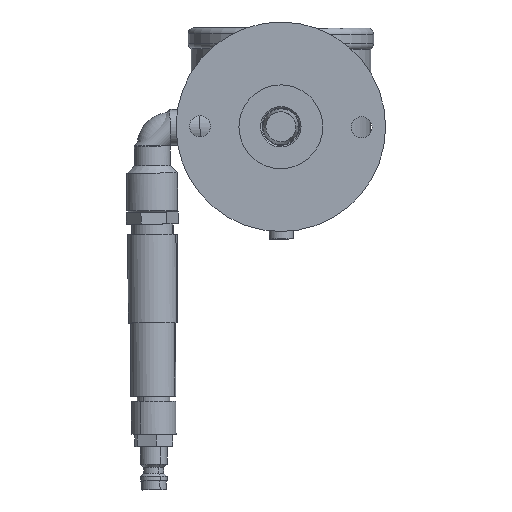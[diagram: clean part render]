
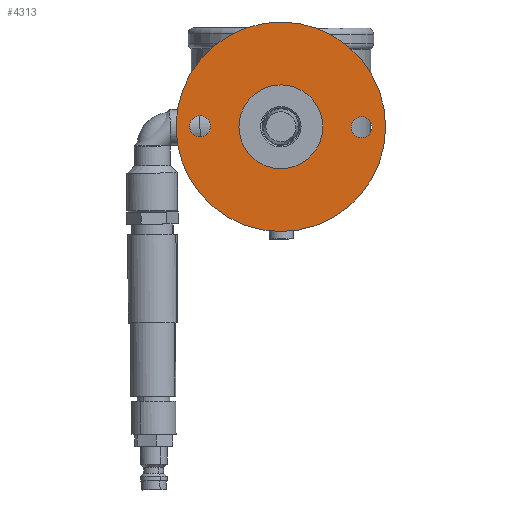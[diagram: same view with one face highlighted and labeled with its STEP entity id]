
A CAD part, front view. The second image highlights one B-rep face of the part: STEP entity #4313.
In plain terms, the highlighted planar face has unit normal (0, -1, 0) as drawn and (-1, 0, 0) by its records, which use the part's own axes.
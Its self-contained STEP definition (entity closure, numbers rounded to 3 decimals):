
#260 = EDGE_CURVE ( 'NONE', #273, #5660, #5349, .T. ) ;
#273 = VERTEX_POINT ( 'NONE', #3263 ) ;
#438 = CARTESIAN_POINT ( 'NONE',  ( 3., 27., 0. ) ) ;
#576 = CARTESIAN_POINT ( 'NONE',  ( 3., 0., 0. ) ) ;
#674 = FACE_BOUND ( 'NONE', #7912, .T. ) ;
#1028 = DIRECTION ( 'NONE',  ( 1., 0., 0. ) ) ;
#1107 = VERTEX_POINT ( 'NONE', #2390 ) ;
#1145 = DIRECTION ( 'NONE',  ( 0., 0., -1. ) ) ;
#1162 = DIRECTION ( 'NONE',  ( 1., 0., 0. ) ) ;
#1221 = CARTESIAN_POINT ( 'NONE',  ( 3., 0., 14. ) ) ;
#1408 = AXIS2_PLACEMENT_3D ( 'NONE', #5350, #1162, #6062 ) ;
#1505 = ORIENTED_EDGE ( 'NONE', *, *, #1561, .F. ) ;
#1544 = CIRCLE ( 'NONE', #6758, 35. ) ;
#1561 = EDGE_CURVE ( 'NONE', #5115, #2522, #1718, .T. ) ;
#1572 = DIRECTION ( 'NONE',  ( 1., 0., 0. ) ) ;
#1609 = EDGE_LOOP ( 'NONE', ( #1505, #6051 ) ) ;
#1678 = EDGE_LOOP ( 'NONE', ( #2945, #4240 ) ) ;
#1718 = CIRCLE ( 'NONE', #2557, 35. ) ;
#1720 = CARTESIAN_POINT ( 'NONE',  ( 3., 27., 3.5 ) ) ;
#1809 = ORIENTED_EDGE ( 'NONE', *, *, #5400, .T. ) ;
#2056 = EDGE_LOOP ( 'NONE', ( #2816, #7843 ) ) ;
#2341 = CARTESIAN_POINT ( 'NONE',  ( 3., 0., 0. ) ) ;
#2346 = DIRECTION ( 'NONE',  ( 0., 0., -1. ) ) ;
#2390 = CARTESIAN_POINT ( 'NONE',  ( 3., 27., -3.5 ) ) ;
#2497 = EDGE_CURVE ( 'NONE', #1107, #7855, #7160, .T. ) ;
#2522 = VERTEX_POINT ( 'NONE', #7732 ) ;
#2540 = FACE_BOUND ( 'NONE', #1678, .T. ) ;
#2557 = AXIS2_PLACEMENT_3D ( 'NONE', #3166, #8081, #3857 ) ;
#2760 = CARTESIAN_POINT ( 'NONE',  ( 3., -27., 3.5 ) ) ;
#2816 = ORIENTED_EDGE ( 'NONE', *, *, #2497, .T. ) ;
#2857 = DIRECTION ( 'NONE',  ( 1., 0., 0. ) ) ;
#2945 = ORIENTED_EDGE ( 'NONE', *, *, #260, .T. ) ;
#3055 = DIRECTION ( 'NONE',  ( 0., 0., -1. ) ) ;
#3166 = CARTESIAN_POINT ( 'NONE',  ( 3., 0., 0. ) ) ;
#3263 = CARTESIAN_POINT ( 'NONE',  ( 3., -27., -3.5 ) ) ;
#3267 = CIRCLE ( 'NONE', #7288, 14. ) ;
#3410 = DIRECTION ( 'NONE',  ( 0., 0., -1. ) ) ;
#3553 = ORIENTED_EDGE ( 'NONE', *, *, #5878, .T. ) ;
#3857 = DIRECTION ( 'NONE',  ( 0., 0., -1. ) ) ;
#3863 = AXIS2_PLACEMENT_3D ( 'NONE', #8171, #3958, #8903 ) ;
#3911 = VERTEX_POINT ( 'NONE', #6441 ) ;
#3958 = DIRECTION ( 'NONE',  ( 1., 0., 0. ) ) ;
#4079 = DIRECTION ( 'NONE',  ( 1., 0., 0. ) ) ;
#4160 = EDGE_CURVE ( 'NONE', #7855, #1107, #5944, .T. ) ;
#4167 = FACE_BOUND ( 'NONE', #2056, .T. ) ;
#4240 = ORIENTED_EDGE ( 'NONE', *, *, #7889, .T. ) ;
#4313 = ADVANCED_FACE ( 'NONE', ( #2540, #4167, #674, #6047 ), #6212, .F. ) ;
#4473 = CIRCLE ( 'NONE', #3863, 14. ) ;
#4537 = EDGE_CURVE ( 'NONE', #2522, #5115, #1544, .T. ) ;
#5115 = VERTEX_POINT ( 'NONE', #6811 ) ;
#5201 = CARTESIAN_POINT ( 'NONE',  ( 3., 0., 0. ) ) ;
#5325 = DIRECTION ( 'NONE',  ( 1., 0., 0. ) ) ;
#5349 = CIRCLE ( 'NONE', #6536, 3.5 ) ;
#5350 = CARTESIAN_POINT ( 'NONE',  ( 3., -27., 0. ) ) ;
#5400 = EDGE_CURVE ( 'NONE', #6975, #3911, #4473, .T. ) ;
#5660 = VERTEX_POINT ( 'NONE', #2760 ) ;
#5878 = EDGE_CURVE ( 'NONE', #3911, #6975, #3267, .T. ) ;
#5923 = DIRECTION ( 'NONE',  ( 0., 0., -1. ) ) ;
#5944 = CIRCLE ( 'NONE', #6169, 3.5 ) ;
#6047 = FACE_OUTER_BOUND ( 'NONE', #1609, .T. ) ;
#6051 = ORIENTED_EDGE ( 'NONE', *, *, #4537, .F. ) ;
#6062 = DIRECTION ( 'NONE',  ( 0., 0., -1. ) ) ;
#6169 = AXIS2_PLACEMENT_3D ( 'NONE', #438, #5325, #1145 ) ;
#6212 = PLANE ( 'NONE',  #7405 ) ;
#6322 = AXIS2_PLACEMENT_3D ( 'NONE', #7046, #2857, #7767 ) ;
#6441 = CARTESIAN_POINT ( 'NONE',  ( 3., 0., -14. ) ) ;
#6536 = AXIS2_PLACEMENT_3D ( 'NONE', #8003, #1572, #2346 ) ;
#6563 = CIRCLE ( 'NONE', #1408, 3.5 ) ;
#6758 = AXIS2_PLACEMENT_3D ( 'NONE', #2341, #7253, #3055 ) ;
#6811 = CARTESIAN_POINT ( 'NONE',  ( 3., 0., 35. ) ) ;
#6975 = VERTEX_POINT ( 'NONE', #1221 ) ;
#7046 = CARTESIAN_POINT ( 'NONE',  ( 3., 27., 0. ) ) ;
#7160 = CIRCLE ( 'NONE', #6322, 3.5 ) ;
#7253 = DIRECTION ( 'NONE',  ( 1., 0., 0. ) ) ;
#7288 = AXIS2_PLACEMENT_3D ( 'NONE', #5201, #1028, #5923 ) ;
#7405 = AXIS2_PLACEMENT_3D ( 'NONE', #576, #4079, #3410 ) ;
#7732 = CARTESIAN_POINT ( 'NONE',  ( 3., 0., -35. ) ) ;
#7767 = DIRECTION ( 'NONE',  ( 0., 0., -1. ) ) ;
#7843 = ORIENTED_EDGE ( 'NONE', *, *, #4160, .T. ) ;
#7855 = VERTEX_POINT ( 'NONE', #1720 ) ;
#7889 = EDGE_CURVE ( 'NONE', #5660, #273, #6563, .T. ) ;
#7912 = EDGE_LOOP ( 'NONE', ( #1809, #3553 ) ) ;
#8003 = CARTESIAN_POINT ( 'NONE',  ( 3., -27., 0. ) ) ;
#8081 = DIRECTION ( 'NONE',  ( 1., 0., 0. ) ) ;
#8171 = CARTESIAN_POINT ( 'NONE',  ( 3., 0., 0. ) ) ;
#8903 = DIRECTION ( 'NONE',  ( 0., 0., -1. ) ) ;
